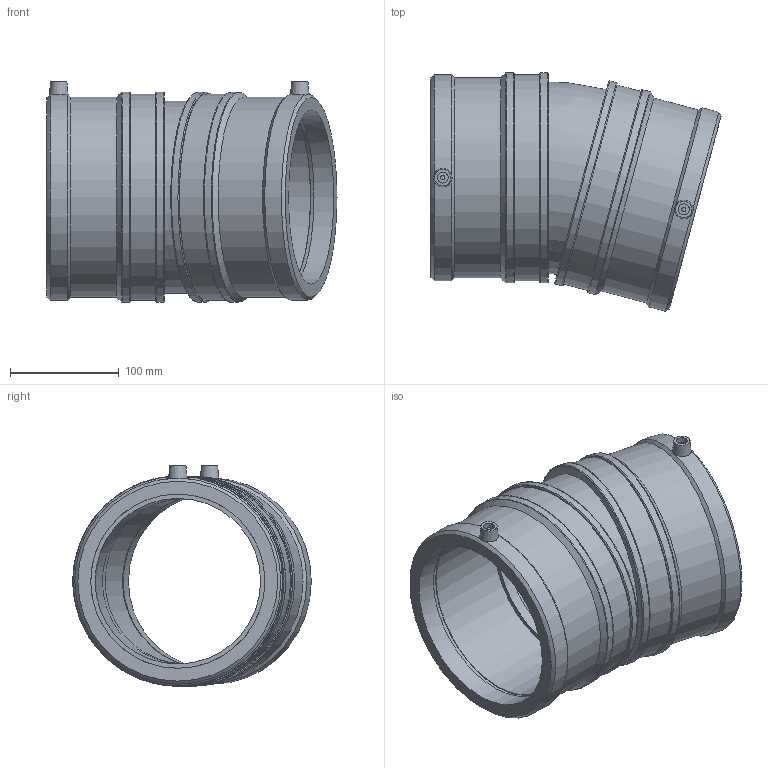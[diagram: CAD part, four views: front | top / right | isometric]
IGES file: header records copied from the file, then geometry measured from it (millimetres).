
Global section: file name: 463704160_473704160.ipt; native system: Autodesk Inventor 2015; preprocessor: unknown; author: KIM; date: 20171106.093452; units: millimetre
Bounding box: 266.27 x 219.04 x 202.5 mm (x, y, z)
Volume: 1837955.1 mm3; surface area: 304321.3 mm2
Topology: 1 solids, 1 shells, 60 faces, 138 edges, 94 vertices
Faces by surface type: revolution 20, plane 18, cylinder 12, cone 10
Full cylindrical faces by diameter (mm): 4 x2, 183.466 x2, 189.14 x2, 193 x4
